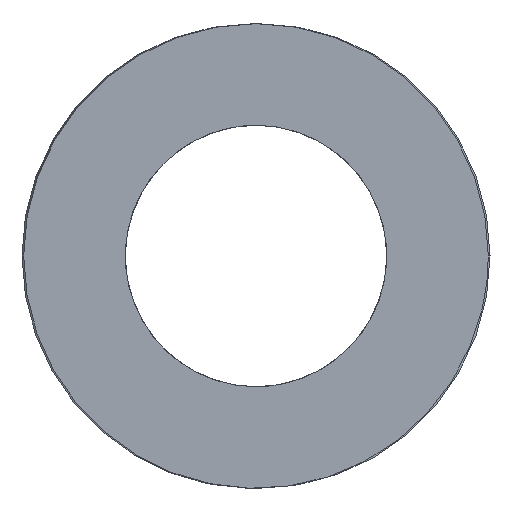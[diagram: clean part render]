
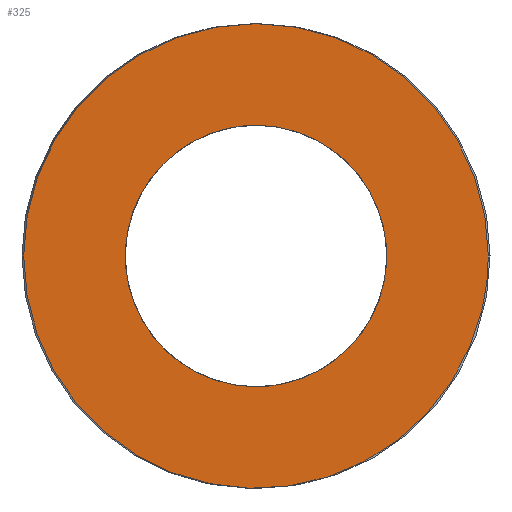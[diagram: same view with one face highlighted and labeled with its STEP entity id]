
A CAD part, left-side view. The second image highlights one B-rep face of the part: STEP entity #325.
In plain terms, the highlighted planar face has unit normal (-1, 0, 0).
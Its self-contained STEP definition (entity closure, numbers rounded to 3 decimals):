
#63=CARTESIAN_POINT('Vertex',(0.,18.75,0.)) ;
#89=CARTESIAN_POINT('Vertex',(0.,-18.75,0.)) ;
#93=CARTESIAN_POINT('Control Point',(0.,18.75,0.)) ;
#94=CARTESIAN_POINT('Control Point',(0.,18.75,-2.945)) ;
#95=CARTESIAN_POINT('Control Point',(0.,18.172,-5.89)) ;
#96=CARTESIAN_POINT('Control Point',(0.,17.015,-8.684)) ;
#97=CARTESIAN_POINT('Control Point',(0.,13.667,-13.667)) ;
#98=CARTESIAN_POINT('Control Point',(0.,8.684,-17.015)) ;
#99=CARTESIAN_POINT('Control Point',(0.,5.89,-18.172)) ;
#100=CARTESIAN_POINT('Control Point',(0.,0.,-19.328)) ;
#101=CARTESIAN_POINT('Control Point',(0.,-5.89,-18.172)) ;
#102=CARTESIAN_POINT('Control Point',(0.,-8.684,-17.015)) ;
#103=CARTESIAN_POINT('Control Point',(0.,-13.667,-13.667)) ;
#104=CARTESIAN_POINT('Control Point',(0.,-17.015,-8.684)) ;
#105=CARTESIAN_POINT('Control Point',(0.,-18.172,-5.89)) ;
#106=CARTESIAN_POINT('Control Point',(0.,-18.75,-2.945)) ;
#107=CARTESIAN_POINT('Control Point',(0.,-18.75,0.)) ;
#121=CARTESIAN_POINT('Axis2P3D Location',(0.,0.,0.)) ;
#256=CARTESIAN_POINT('Axis2P3D Location',(0.,9.375,0.)) ;
#266=CARTESIAN_POINT('Control Point',(0.,0.,-10.55)) ;
#267=CARTESIAN_POINT('Control Point',(0.,0.955,-10.55)) ;
#268=CARTESIAN_POINT('Control Point',(0.,1.909,-10.442)) ;
#269=CARTESIAN_POINT('Control Point',(0.,2.848,-10.226)) ;
#270=CARTESIAN_POINT('Control Point',(0.,4.66,-9.585)) ;
#271=CARTESIAN_POINT('Control Point',(0.,6.283,-8.556)) ;
#272=CARTESIAN_POINT('Control Point',(0.,7.032,-7.952)) ;
#273=CARTESIAN_POINT('Control Point',(0.,8.381,-6.584)) ;
#274=CARTESIAN_POINT('Control Point',(0.,9.391,-4.949)) ;
#275=CARTESIAN_POINT('Control Point',(0.,9.801,-4.077)) ;
#276=CARTESIAN_POINT('Control Point',(0.,10.416,-2.257)) ;
#277=CARTESIAN_POINT('Control Point',(0.,10.61,-0.345)) ;
#278=CARTESIAN_POINT('Control Point',(0.,10.597,0.618)) ;
#279=CARTESIAN_POINT('Control Point',(0.,10.355,2.524)) ;
#280=CARTESIAN_POINT('Control Point',(0.,9.693,4.328)) ;
#281=CARTESIAN_POINT('Control Point',(0.,9.26,5.189)) ;
#282=CARTESIAN_POINT('Control Point',(0.,8.209,6.797)) ;
#283=CARTESIAN_POINT('Control Point',(0.,6.825,8.13)) ;
#284=CARTESIAN_POINT('Control Point',(0.,6.06,8.715)) ;
#285=CARTESIAN_POINT('Control Point',(0.,4.458,9.674)) ;
#286=CARTESIAN_POINT('Control Point',(0.,2.687,10.262)) ;
#287=CARTESIAN_POINT('Control Point',(0.,1.801,10.454)) ;
#288=CARTESIAN_POINT('Control Point',(0.,0.9,10.55)) ;
#289=CARTESIAN_POINT('Control Point',(0.,0.,10.55)) ;
#290=CARTESIAN_POINT('Vertex',(0.,0.,-10.55)) ;
#292=CARTESIAN_POINT('Vertex',(0.,0.,10.55)) ;
#296=CARTESIAN_POINT('Control Point',(0.,0.,10.55)) ;
#297=CARTESIAN_POINT('Control Point',(0.,-0.955,10.55)) ;
#298=CARTESIAN_POINT('Control Point',(0.,-1.909,10.442)) ;
#299=CARTESIAN_POINT('Control Point',(0.,-2.848,10.226)) ;
#300=CARTESIAN_POINT('Control Point',(0.,-4.66,9.585)) ;
#301=CARTESIAN_POINT('Control Point',(0.,-6.283,8.556)) ;
#302=CARTESIAN_POINT('Control Point',(0.,-7.032,7.952)) ;
#303=CARTESIAN_POINT('Control Point',(0.,-8.381,6.584)) ;
#304=CARTESIAN_POINT('Control Point',(0.,-9.391,4.949)) ;
#305=CARTESIAN_POINT('Control Point',(0.,-9.801,4.077)) ;
#306=CARTESIAN_POINT('Control Point',(0.,-10.416,2.257)) ;
#307=CARTESIAN_POINT('Control Point',(0.,-10.61,0.345)) ;
#308=CARTESIAN_POINT('Control Point',(0.,-10.597,-0.618)) ;
#309=CARTESIAN_POINT('Control Point',(0.,-10.355,-2.524)) ;
#310=CARTESIAN_POINT('Control Point',(0.,-9.693,-4.328)) ;
#311=CARTESIAN_POINT('Control Point',(0.,-9.26,-5.189)) ;
#312=CARTESIAN_POINT('Control Point',(0.,-8.209,-6.797)) ;
#313=CARTESIAN_POINT('Control Point',(0.,-6.825,-8.13)) ;
#314=CARTESIAN_POINT('Control Point',(0.,-6.06,-8.715)) ;
#315=CARTESIAN_POINT('Control Point',(0.,-4.458,-9.674)) ;
#316=CARTESIAN_POINT('Control Point',(0.,-2.687,-10.262)) ;
#317=CARTESIAN_POINT('Control Point',(0.,-1.801,-10.454)) ;
#318=CARTESIAN_POINT('Control Point',(0.,-0.9,-10.55)) ;
#319=CARTESIAN_POINT('Control Point',(0.,0.,-10.55)) ;
#122=DIRECTION('Axis2P3D Direction',(1.,-0.,0.)) ;
#257=DIRECTION('Axis2P3D Direction',(-1.,0.,0.)) ;
#258=DIRECTION('Axis2P3D XDirection',(0.,1.,0.)) ;
#123=AXIS2_PLACEMENT_3D('Circle Axis2P3D',#121,#122,$) ;
#259=AXIS2_PLACEMENT_3D('Plane Axis2P3D',#256,#257,#258) ;
#262=ORIENTED_EDGE('',*,*,#108,.T.) ;
#263=ORIENTED_EDGE('',*,*,#125,.T.) ;
#322=ORIENTED_EDGE('',*,*,#294,.T.) ;
#323=ORIENTED_EDGE('',*,*,#320,.T.) ;
#324=FACE_BOUND('',#321,.T.) ;
#325=ADVANCED_FACE('392-B40-254',(#264,#324),#260,.T.) ;
#92=B_SPLINE_CURVE_WITH_KNOTS('',5,(#93,#94,#95,#96,#97,#98,#99,#100,#101,#102,#103,#104,#105,#106,#107),.UNSPECIFIED.,.F.,.U.,(6,3,3,3,6),(-29.452,-14.726,0.,14.726,29.452),.UNSPECIFIED.) ;
#265=B_SPLINE_CURVE_WITH_KNOTS('',5,(#266,#267,#268,#269,#270,#271,#272,#273,#274,#275,#276,#277,#278,#279,#280,#281,#282,#283,#284,#285,#286,#287,#288,#289),.UNSPECIFIED.,.F.,.U.,(6,3,3,3,3,3,3,6),(0.,6.751,13.502,20.253,27.004,33.755,40.506,46.872),.UNSPECIFIED.) ;
#295=B_SPLINE_CURVE_WITH_KNOTS('',5,(#296,#297,#298,#299,#300,#301,#302,#303,#304,#305,#306,#307,#308,#309,#310,#311,#312,#313,#314,#315,#316,#317,#318,#319),.UNSPECIFIED.,.F.,.U.,(6,3,3,3,3,3,3,6),(0.,6.751,13.502,20.253,27.004,33.755,40.506,46.872),.UNSPECIFIED.) ;
#124=CIRCLE('generated circle',#123,18.75) ;
#108=EDGE_CURVE('',#64,#90,#92,.T.) ;
#125=EDGE_CURVE('',#90,#64,#124,.F.) ;
#294=EDGE_CURVE('',#291,#293,#265,.T.) ;
#320=EDGE_CURVE('',#293,#291,#295,.T.) ;
#261=EDGE_LOOP('',(#262,#263)) ;
#321=EDGE_LOOP('',(#322,#323)) ;
#264=FACE_OUTER_BOUND('',#261,.T.) ;
#260=PLANE('Plane',#259) ;
#64=VERTEX_POINT('',#63) ;
#90=VERTEX_POINT('',#89) ;
#291=VERTEX_POINT('',#290) ;
#293=VERTEX_POINT('',#292) ;
